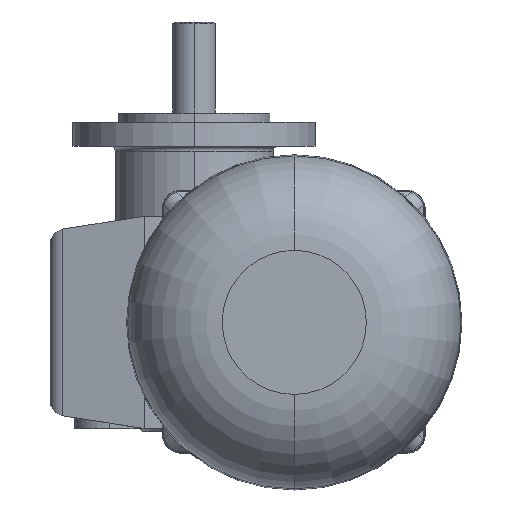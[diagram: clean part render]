
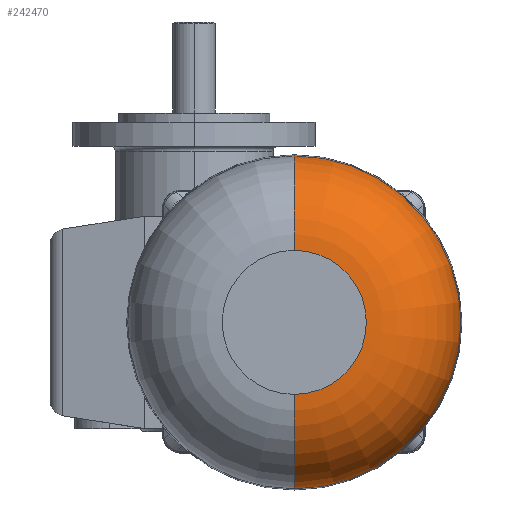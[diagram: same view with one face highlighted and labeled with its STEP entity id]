
A CAD part, left-side view. The second image highlights one B-rep face of the part: STEP entity #242470.
In plain terms, the highlighted toroidal (fillet/blend) face has major radius 23.857 mm and minor radius 30.996 mm.
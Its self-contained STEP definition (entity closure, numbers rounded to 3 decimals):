
#41060=CARTESIAN_POINT('',(1.042,-286.495,
45.017));
#41070=DIRECTION('',(1.,0.,0.));
#41080=DIRECTION('',(0.,0.,-1.));
#41090=AXIS2_PLACEMENT_3D('',#41060,#41070,#41080);
#41100=CIRCLE('',#41090,23.757);
#41110=CARTESIAN_POINT('',(1.042,-286.495,
21.261));
#41120=VERTEX_POINT('',#41110);
#41130=CARTESIAN_POINT('',(1.042,-286.495,
68.774));
#41140=VERTEX_POINT('',#41130);
#41150=EDGE_CURVE('',#41120,#41140,#41100,.T.);
#41690=CARTESIAN_POINT('',(-29.393,-286.495,
-9.831));
#41700=VERTEX_POINT('',#41690);
#41750=CARTESIAN_POINT('',(-29.393,-286.495,
45.017));
#41760=DIRECTION('',(1.,0.,0.));
#41770=DIRECTION('',(0.,0.,-1.));
#41780=AXIS2_PLACEMENT_3D('',#41750,#41760,#41770);
#41790=CIRCLE('',#41780,54.848);
#41800=CARTESIAN_POINT('',(-29.393,-286.495,
99.866));
#41810=VERTEX_POINT('',#41800);
#41820=EDGE_CURVE('',#41700,#41810,#41790,.T.);
#78030=CARTESIAN_POINT('',(-29.954,-286.495,
45.017));
#78040=DIRECTION('',(1.,0.,0.));
#78050=DIRECTION('',(0.,0.,-1.));
#78060=AXIS2_PLACEMENT_3D('',#78030,#78040,#78050);
#78070=DEGENERATE_TOROIDAL_SURFACE('',#78060,23.857,
30.996,.T.);
#78080=CARTESIAN_POINT('',(-29.954,-286.495,
68.875));
#78090=DIRECTION('',(0.,-1.,0.));
#78100=DIRECTION('',(1.,0.,0.));
#78110=AXIS2_PLACEMENT_3D('',#78080,#78090,#78100);
#78120=CIRCLE('',#78110,30.996);
#78130=EDGE_CURVE('',#41140,#41810,#78120,.T.);
#78160=CARTESIAN_POINT('',(-29.954,-286.495,
21.16));
#78170=DIRECTION('',(0.,1.,0.));
#78180=DIRECTION('',(1.,0.,0.));
#78190=AXIS2_PLACEMENT_3D('',#78160,#78170,#78180);
#78200=CIRCLE('',#78190,30.996);
#78210=EDGE_CURVE('',#41120,#41700,#78200,.T.);
#242410=ORIENTED_EDGE('',*,*,#41150,.F.);
#242420=ORIENTED_EDGE('',*,*,#78130,.F.);
#242430=ORIENTED_EDGE('',*,*,#41820,.T.);
#242440=ORIENTED_EDGE('',*,*,#78210,.T.);
#242450=EDGE_LOOP('',(#242440,#242430,#242420,#242410));
#242460=FACE_OUTER_BOUND('',#242450,.T.);
#242470=ADVANCED_FACE('',(#242460),#78070,.T.);
